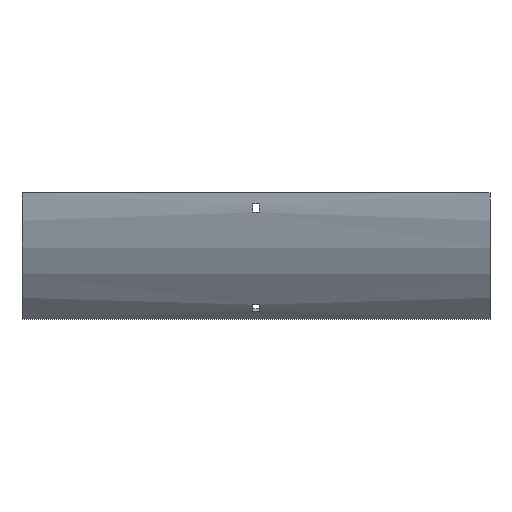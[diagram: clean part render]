
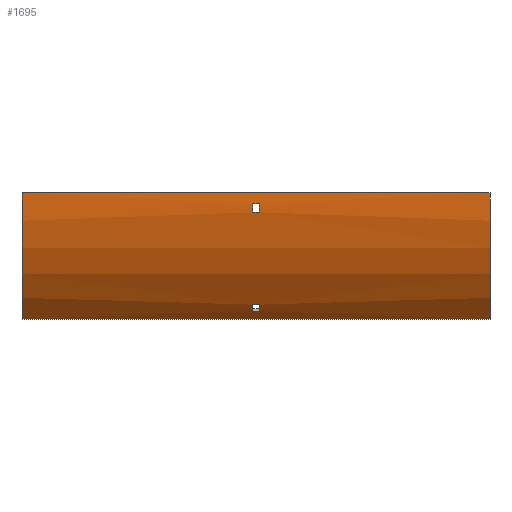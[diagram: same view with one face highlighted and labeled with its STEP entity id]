
A CAD part, front view. The second image highlights one B-rep face of the part: STEP entity #1695.
In plain terms, the highlighted cylindrical face has radius 192.5 mm (diameter 385 mm), a partial arc.
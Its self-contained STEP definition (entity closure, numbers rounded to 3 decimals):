
#6 = EDGE_CURVE ( 'NONE', #1424, #1431, #1463, .T. ) ;
#43 = DIRECTION ( 'NONE',  ( 1., 0., 0. ) ) ;
#44 = AXIS2_PLACEMENT_3D ( 'NONE', #1454, #1525, #1164 ) ;
#61 = ORIENTED_EDGE ( 'NONE', *, *, #193, .T. ) ;
#66 = LINE ( 'NONE', #218, #780 ) ;
#120 = VERTEX_POINT ( 'NONE', #1005 ) ;
#136 = ORIENTED_EDGE ( 'NONE', *, *, #1469, .T. ) ;
#140 = LINE ( 'NONE', #1188, #809 ) ;
#146 = VECTOR ( 'NONE', #1430, 1000. ) ;
#172 = EDGE_CURVE ( 'NONE', #731, #1096, #140, .T. ) ;
#181 = DIRECTION ( 'NONE',  ( -1., 0., 0. ) ) ;
#184 = CARTESIAN_POINT ( 'NONE',  ( -3.25, -44.339, -127.368 ) ) ;
#193 = EDGE_CURVE ( 'NONE', #410, #745, #894, .T. ) ;
#218 = CARTESIAN_POINT ( 'NONE',  ( 252., -92.126, -12. ) ) ;
#236 = ORIENTED_EDGE ( 'NONE', *, *, #1467, .F. ) ;
#242 = CARTESIAN_POINT ( 'NONE',  ( 3.25, -44.339, -127.368 ) ) ;
#282 = CARTESIAN_POINT ( 'NONE',  ( -3.25, 100., 0. ) ) ;
#334 = EDGE_CURVE ( 'NONE', #616, #608, #1437, .T. ) ;
#339 = LINE ( 'NONE', #1614, #1082 ) ;
#370 = AXIS2_PLACEMENT_3D ( 'NONE', #703, #43, #1327 ) ;
#372 = ORIENTED_EDGE ( 'NONE', *, *, #987, .T. ) ;
#391 = LINE ( 'NONE', #658, #917 ) ;
#400 = ORIENTED_EDGE ( 'NONE', *, *, #772, .T. ) ;
#404 = DIRECTION ( 'NONE',  ( -1., 0., 0. ) ) ;
#407 = AXIS2_PLACEMENT_3D ( 'NONE', #683, #1225, #427 ) ;
#410 = VERTEX_POINT ( 'NONE', #1350 ) ;
#427 = DIRECTION ( 'NONE',  ( 0., 0., -1. ) ) ;
#438 = EDGE_LOOP ( 'NONE', ( #1131, #938, #784, #819 ) ) ;
#441 = EDGE_CURVE ( 'NONE', #1236, #1424, #339, .T. ) ;
#442 = FACE_BOUND ( 'NONE', #438, .T. ) ;
#508 = DIRECTION ( 'NONE',  ( 1., 0., 0. ) ) ;
#514 = AXIS2_PLACEMENT_3D ( 'NONE', #1081, #181, #1105 ) ;
#542 = AXIS2_PLACEMENT_3D ( 'NONE', #1409, #508, #773 ) ;
#560 = FACE_BOUND ( 'NONE', #1509, .T. ) ;
#570 = FACE_OUTER_BOUND ( 'NONE', #932, .T. ) ;
#608 = VERTEX_POINT ( 'NONE', #756 ) ;
#612 = EDGE_CURVE ( 'NONE', #1431, #1642, #891, .T. ) ;
#616 = VERTEX_POINT ( 'NONE', #1311 ) ;
#621 = EDGE_CURVE ( 'NONE', #1642, #1236, #705, .T. ) ;
#630 = CARTESIAN_POINT ( 'NONE',  ( -3.25, -92.126, -12. ) ) ;
#658 = CARTESIAN_POINT ( 'NONE',  ( 252., -91.351, -21. ) ) ;
#668 = CARTESIAN_POINT ( 'NONE',  ( 252., -92.5, 0. ) ) ;
#675 = CARTESIAN_POINT ( 'NONE',  ( -252., -92.5, 0. ) ) ;
#683 = CARTESIAN_POINT ( 'NONE',  ( -252., 100., 0. ) ) ;
#703 = CARTESIAN_POINT ( 'NONE',  ( 3.25, 100., 0. ) ) ;
#705 = CIRCLE ( 'NONE', #542, 192.5 ) ;
#731 = VERTEX_POINT ( 'NONE', #1349 ) ;
#745 = VERTEX_POINT ( 'NONE', #675 ) ;
#756 = CARTESIAN_POINT ( 'NONE',  ( 3.25, -91.351, -21. ) ) ;
#772 = EDGE_CURVE ( 'NONE', #745, #1096, #1443, .T. ) ;
#773 = DIRECTION ( 'NONE',  ( 0., 0., -1. ) ) ;
#779 = CARTESIAN_POINT ( 'NONE',  ( 252., -50.155, -120.456 ) ) ;
#780 = VECTOR ( 'NONE', #859, 1000. ) ;
#784 = ORIENTED_EDGE ( 'NONE', *, *, #6, .F. ) ;
#809 = VECTOR ( 'NONE', #404, 1000. ) ;
#819 = ORIENTED_EDGE ( 'NONE', *, *, #441, .F. ) ;
#859 = DIRECTION ( 'NONE',  ( 1., 0., 0. ) ) ;
#874 = AXIS2_PLACEMENT_3D ( 'NONE', #282, #880, #1675 ) ;
#875 = EDGE_CURVE ( 'NONE', #1032, #616, #66, .T. ) ;
#880 = DIRECTION ( 'NONE',  ( -1., 0., 0. ) ) ;
#891 = LINE ( 'NONE', #779, #1087 ) ;
#894 = LINE ( 'NONE', #668, #146 ) ;
#917 = VECTOR ( 'NONE', #1149, 1000. ) ;
#932 = EDGE_LOOP ( 'NONE', ( #400, #1297, #236, #61 ) ) ;
#938 = ORIENTED_EDGE ( 'NONE', *, *, #612, .F. ) ;
#971 = CYLINDRICAL_SURFACE ( 'NONE', #1285, 192.5 ) ;
#981 = CARTESIAN_POINT ( 'NONE',  ( 252., 100., 0. ) ) ;
#987 = EDGE_CURVE ( 'NONE', #608, #120, #391, .T. ) ;
#1005 = CARTESIAN_POINT ( 'NONE',  ( -3.25, -91.351, -21. ) ) ;
#1015 = CARTESIAN_POINT ( 'NONE',  ( -3.25, -50.155, -120.456 ) ) ;
#1032 = VERTEX_POINT ( 'NONE', #630 ) ;
#1081 = CARTESIAN_POINT ( 'NONE',  ( 3.25, 100., 0. ) ) ;
#1082 = VECTOR ( 'NONE', #1132, 1000. ) ;
#1083 = CARTESIAN_POINT ( 'NONE',  ( -252., -36.118, -136.118 ) ) ;
#1084 = DIRECTION ( 'NONE',  ( 0., 0., 1. ) ) ;
#1087 = VECTOR ( 'NONE', #1286, 1000. ) ;
#1096 = VERTEX_POINT ( 'NONE', #1083 ) ;
#1105 = DIRECTION ( 'NONE',  ( 0., 0., 1. ) ) ;
#1131 = ORIENTED_EDGE ( 'NONE', *, *, #621, .F. ) ;
#1132 = DIRECTION ( 'NONE',  ( 1., 0., 0. ) ) ;
#1138 = CARTESIAN_POINT ( 'NONE',  ( 3.25, -50.155, -120.456 ) ) ;
#1149 = DIRECTION ( 'NONE',  ( -1., 0., 0. ) ) ;
#1164 = DIRECTION ( 'NONE',  ( 0., 0., -1. ) ) ;
#1188 = CARTESIAN_POINT ( 'NONE',  ( 252., -36.118, -136.118 ) ) ;
#1206 = CIRCLE ( 'NONE', #44, 192.5 ) ;
#1225 = DIRECTION ( 'NONE',  ( 1., 0., 0. ) ) ;
#1236 = VERTEX_POINT ( 'NONE', #184 ) ;
#1285 = AXIS2_PLACEMENT_3D ( 'NONE', #981, #1500, #1084 ) ;
#1286 = DIRECTION ( 'NONE',  ( -1., 0., 0. ) ) ;
#1297 = ORIENTED_EDGE ( 'NONE', *, *, #172, .F. ) ;
#1311 = CARTESIAN_POINT ( 'NONE',  ( 3.25, -92.126, -12. ) ) ;
#1327 = DIRECTION ( 'NONE',  ( 0., 0., -1. ) ) ;
#1346 = ORIENTED_EDGE ( 'NONE', *, *, #334, .T. ) ;
#1349 = CARTESIAN_POINT ( 'NONE',  ( 252., -36.118, -136.118 ) ) ;
#1350 = CARTESIAN_POINT ( 'NONE',  ( 252., -92.5, 0. ) ) ;
#1409 = CARTESIAN_POINT ( 'NONE',  ( -3.25, 100., 0. ) ) ;
#1424 = VERTEX_POINT ( 'NONE', #242 ) ;
#1430 = DIRECTION ( 'NONE',  ( -1., 0., 0. ) ) ;
#1431 = VERTEX_POINT ( 'NONE', #1138 ) ;
#1437 = CIRCLE ( 'NONE', #370, 192.5 ) ;
#1443 = CIRCLE ( 'NONE', #407, 192.5 ) ;
#1454 = CARTESIAN_POINT ( 'NONE',  ( 252., 100., 0. ) ) ;
#1463 = CIRCLE ( 'NONE', #514, 192.5 ) ;
#1467 = EDGE_CURVE ( 'NONE', #410, #731, #1206, .T. ) ;
#1469 = EDGE_CURVE ( 'NONE', #120, #1032, #1526, .T. ) ;
#1500 = DIRECTION ( 'NONE',  ( -1., 0., 0. ) ) ;
#1509 = EDGE_LOOP ( 'NONE', ( #372, #136, #1624, #1346 ) ) ;
#1525 = DIRECTION ( 'NONE',  ( 1., 0., 0. ) ) ;
#1526 = CIRCLE ( 'NONE', #874, 192.5 ) ;
#1614 = CARTESIAN_POINT ( 'NONE',  ( 252., -44.339, -127.368 ) ) ;
#1624 = ORIENTED_EDGE ( 'NONE', *, *, #875, .T. ) ;
#1642 = VERTEX_POINT ( 'NONE', #1015 ) ;
#1675 = DIRECTION ( 'NONE',  ( 0., 0., 1. ) ) ;
#1695 = ADVANCED_FACE ( 'NONE', ( #570, #560, #442 ), #971, .T. ) ;
